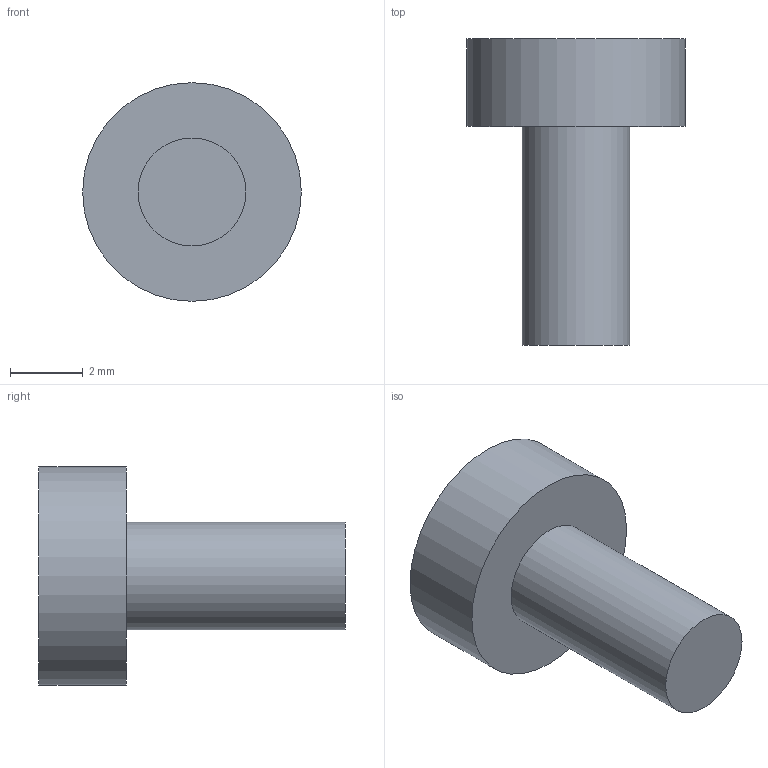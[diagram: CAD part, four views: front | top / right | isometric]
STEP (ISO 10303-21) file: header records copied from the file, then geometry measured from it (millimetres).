
FILE_DESCRIPTION(('Open CASCADE Model'),'2;1');
FILE_NAME('Open CASCADE Shape Model','2026-10-01T12:35:22',('Author'),( 'Open CASCADE'),'Open CASCADE STEP processor 7.8','Open CASCADE 7.8' ,'Unknown');
FILE_SCHEMA(('AUTOMOTIVE_DESIGN { 1 0 10303 214 1 1 1 1 }'));
Length unit declared in the file: millimetre
Products named in the file (2): H60_Display_screw_3; H60_Display_screw_3_solid
Assembly tree (1 placements, depth 2):
  H60_Display_screw_3
    H60_Display_screw_3_solid
Bounding box: 6 x 8.4 x 6 mm (x, y, z)
Volume: 109.1 mm3; surface area: 157.6 mm2
Topology: 1 solids, 1 shells, 5 faces, 6 edges, 4 vertices
Faces by surface type: plane 3, cylinder 2
Full cylindrical faces by diameter (mm): 2.96 x1, 6 x1
Entity records: 219 total; most frequent: DIRECTION 36, CARTESIAN_POINT 29, ORIENTED_EDGE 12, PCURVE 12, DEFINITIONAL_REPRESENTATION 12, AXIS2_PLACEMENT_3D 11, LINE 10, VECTOR 10
